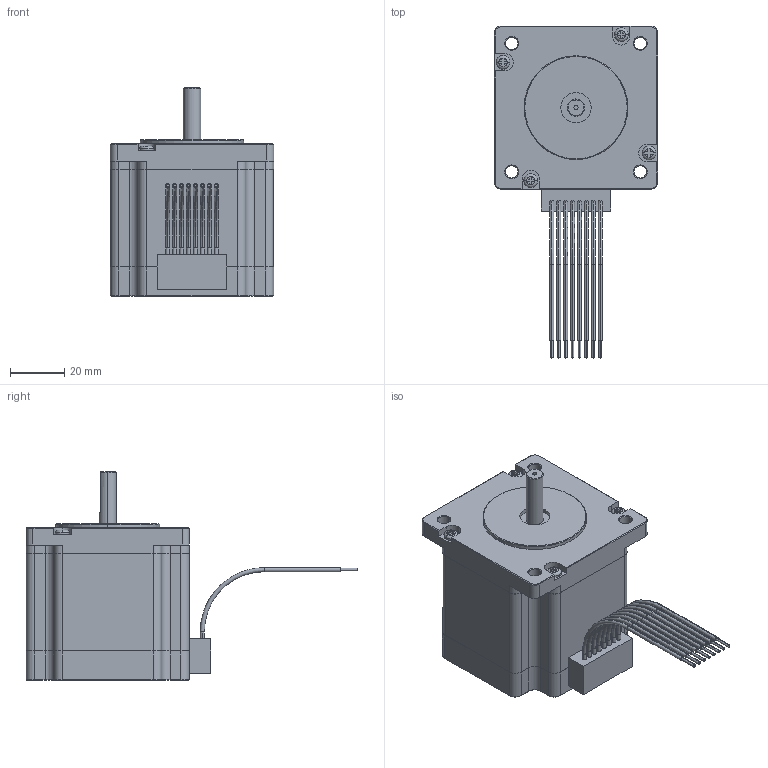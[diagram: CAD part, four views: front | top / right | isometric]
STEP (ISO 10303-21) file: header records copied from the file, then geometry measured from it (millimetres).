
FILE_DESCRIPTION (( 'STEP AP214' ), '1' );
FILE_NAME ('24Y204S-LW8.STEP', '2010-06-11T15:56:07', ( 'Tim Raines' ), ( 'Anaheim Automation' ), 'SwSTEP 2.0', 'SolidWorks 2010', '' );
FILE_SCHEMA (( 'AUTOMOTIVE_DESIGN' ));
Length unit declared in the file: inch
Products named in the file (1): 24Y204S-LW8
Bounding box: 59.94 x 121.84 x 76.58 mm (x, y, z)
Volume: 184760.1 mm3; surface area: 24676.7 mm2
Topology: 1 solids, 1 shells, 385 faces, 966 edges, 608 vertices
Faces by surface type: plane 175, cylinder 131, cone 55, torus 24
Entity records: 16616 total; most frequent: CARTESIAN_POINT 2206, DIRECTION 2039, ORIENTED_EDGE 1916, EDGE_CURVE 958, AXIS2_PLACEMENT_3D 753, VERTEX_POINT 608, VECTOR 533, LINE 533
